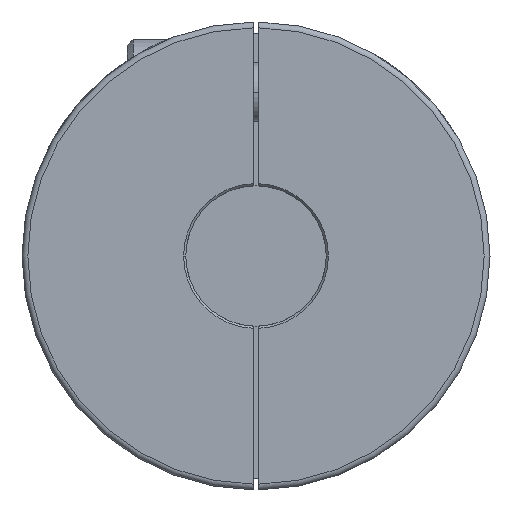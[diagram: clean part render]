
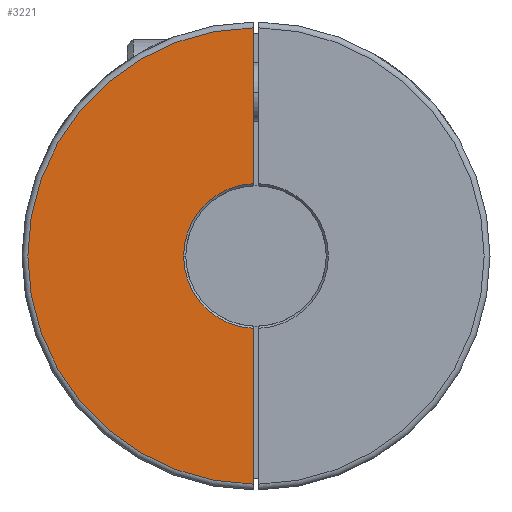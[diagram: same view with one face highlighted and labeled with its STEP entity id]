
A CAD part, left-side view. The second image highlights one B-rep face of the part: STEP entity #3221.
In plain terms, the highlighted planar face has unit normal (-1, 0, 0).
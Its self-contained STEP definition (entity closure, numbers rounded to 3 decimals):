
#790=CARTESIAN_POINT('',(-16.,0.125,9.749));
#799=CARTESIAN_POINT('',(-16.,0.,0.));
#800=DIRECTION('',(-1.,0.,0.));
#801=DIRECTION('',(0.,0.013,1.));
#802=AXIS2_PLACEMENT_3D('',#799,#800,#801);
#811=CARTESIAN_POINT('',(-16.,0.125,-9.749));
#841=DIRECTION('',(0.,0.,-1.));
#842=VECTOR('',#841,6.658);
#843=CARTESIAN_POINT('',(-16.,0.125,9.749));
#844=LINE('',#843,#842);
#845=DIRECTION('',(0.,0.,-1.));
#846=VECTOR('',#845,6.658);
#847=CARTESIAN_POINT('',(-16.,0.125,-3.091));
#848=LINE('',#847,#846);
#862=CARTESIAN_POINT('',(-16.,0.,0.));
#863=DIRECTION('',(1.,0.,0.));
#864=DIRECTION('',(0.,1.,0.));
#865=AXIS2_PLACEMENT_3D('',#862,#863,#864);
#958=CARTESIAN_POINT('',(-16.,0.,0.));
#959=DIRECTION('',(-1.,0.,0.));
#960=DIRECTION('',(0.,1.,0.));
#961=AXIS2_PLACEMENT_3D('',#958,#959,#960);
#2137=VERTEX_POINT('',#811);
#2139=VERTEX_POINT('',#790);
#2421=CARTESIAN_POINT('',(-16.,3.094,0.));
#2422=CARTESIAN_POINT('',(-16.,0.125,3.091));
#2423=VERTEX_POINT('',#2421);
#2424=VERTEX_POINT('',#2422);
#2427=CARTESIAN_POINT('',(-16.,0.125,-3.091));
#2428=VERTEX_POINT('',#2427);
#3207=CARTESIAN_POINT('',(-16.,0.,0.));
#3208=DIRECTION('',(1.,0.,0.));
#3209=DIRECTION('',(0.,-1.,0.));
#3210=AXIS2_PLACEMENT_3D('',#3207,#3208,#3209);
#3211=PLANE('',#3210);
#3212=ORIENTED_EDGE('',*,*,#2999,.T.);
#3214=ORIENTED_EDGE('',*,*,#3213,.F.);
#3216=ORIENTED_EDGE('',*,*,#3215,.T.);
#3217=ORIENTED_EDGE('',*,*,#3028,.T.);
#3218=ORIENTED_EDGE('',*,*,#3188,.F.);
#3219=EDGE_LOOP('',(#3212,#3214,#3216,#3217,#3218));
#3220=FACE_OUTER_BOUND('',#3219,.F.);
#3221=ADVANCED_FACE('',(#3220),#3211,.F.);
#803=CIRCLE('',#802,9.75);
#866=CIRCLE('',#865,3.094);
#962=CIRCLE('',#961,3.094);
#2999=EDGE_CURVE('',#2139,#2424,#844,.T.);
#3028=EDGE_CURVE('',#2428,#2137,#848,.T.);
#3188=EDGE_CURVE('',#2139,#2137,#803,.T.);
#3213=EDGE_CURVE('',#2423,#2424,#866,.T.);
#3215=EDGE_CURVE('',#2423,#2428,#962,.T.);
